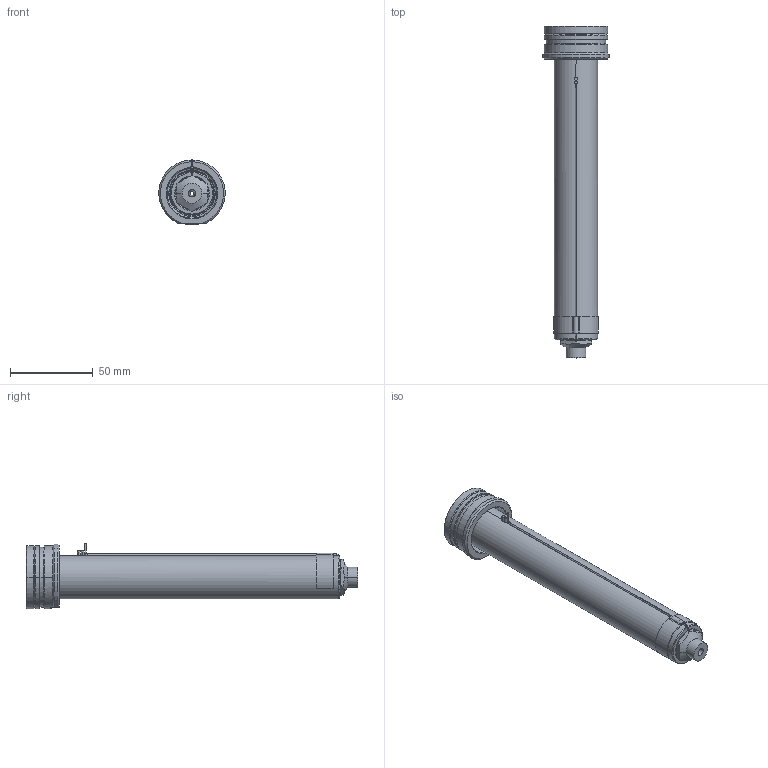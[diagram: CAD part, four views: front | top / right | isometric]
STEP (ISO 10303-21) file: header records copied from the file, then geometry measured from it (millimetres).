
FILE_DESCRIPTION((''),'2;1');
FILE_NAME('EO08_SG_SG_180_SW','2024-02-19T12:21:01',('sundharh'),(''),'CREO PARAMETRIC BY PTC INC, 2023154','CREO PARAMETRIC BY PTC INC, 2023154','');
FILE_SCHEMA(('CONFIG_CONTROL_DESIGN'));
Length unit declared in the file: millimetre
Products named in the file (1): EO08_SG_SG_180_SW
Bounding box: 39.88 x 200 x 39.52 mm (x, y, z)
Volume: 102509.1 mm3; surface area: 27504.6 mm2
Topology: 1 solids, 1 shells, 167 faces, 419 edges, 256 vertices
Faces by surface type: cylinder 64, plane 44, cone 33, torus 19, bspline 4, sphere 3
Entity records: 6222 total; most frequent: CARTESIAN_POINT 2149, DIRECTION 895, ORIENTED_EDGE 826, EDGE_CURVE 413, AXIS2_PLACEMENT_3D 370, VERTEX_POINT 256, CIRCLE 207, EDGE_LOOP 183
